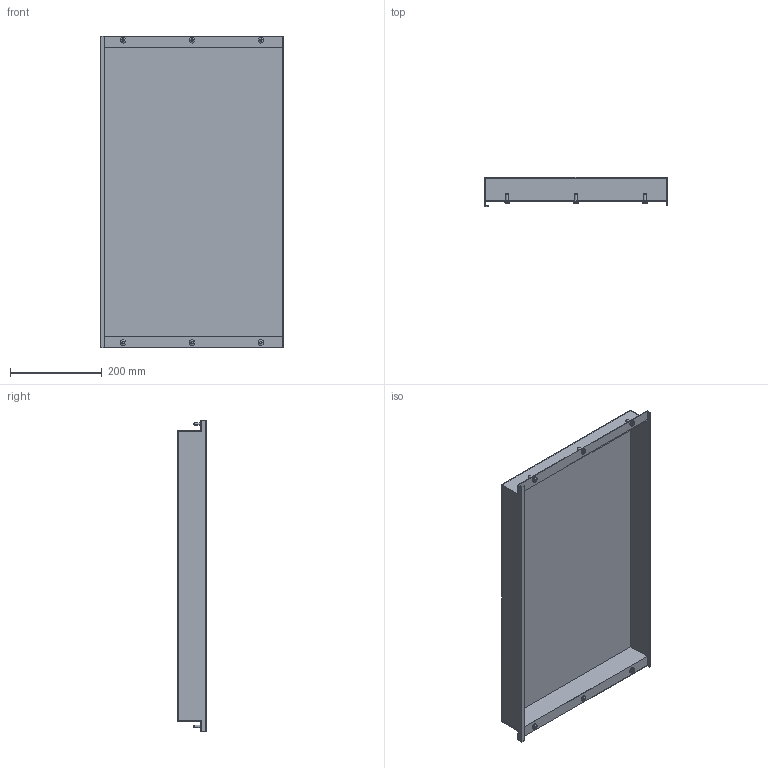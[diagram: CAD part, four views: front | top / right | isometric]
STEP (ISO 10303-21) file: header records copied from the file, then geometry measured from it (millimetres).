
FILE_DESCRIPTION (( 'STEP AP214' ), '1' );
FILE_NAME ('FO-00-PVSU-040-080 Ïëàñòðîí âíóòðåííèé óãëóáëåííûé 400õ800õ50.STEP', '2025-09-29T14:12:01', ( '' ), ( '' ), 'SwSTEP 2.0', 'SolidWorks 2023', '' );
FILE_SCHEMA (( 'AUTOMOTIVE_DESIGN' ));
Length unit declared in the file: millimetre
Products named in the file (3): Винты М6х16 40-80; FO-00-PVSU-040-080 Пластрон внутренний углубленный 400х800х50
Assembly tree (3 placements, depth 2):
  FO-00-PVSU-040-080 Пластрон внутренний углубленный 400х800х50
    FO-00-PVSU-040-080 Пластрон внутренний углубленный 400х800х50
    Винты М6х16 40-80  x2
Bounding box: 398 x 62.5 x 679 mm (x, y, z)
Volume: 551519.5 mm3; surface area: 788384.2 mm2
Topology: 7 solids, 7 shells, 217 faces, 568 edges, 371 vertices
Faces by surface type: cylinder 132, plane 55, cone 18, bspline 12
Entity records: 4572 total; most frequent: CARTESIAN_POINT 1042, ORIENTED_EDGE 728, DIRECTION 708, EDGE_CURVE 364, AXIS2_PLACEMENT_3D 259, VERTEX_POINT 239, LINE 190, VECTOR 190
